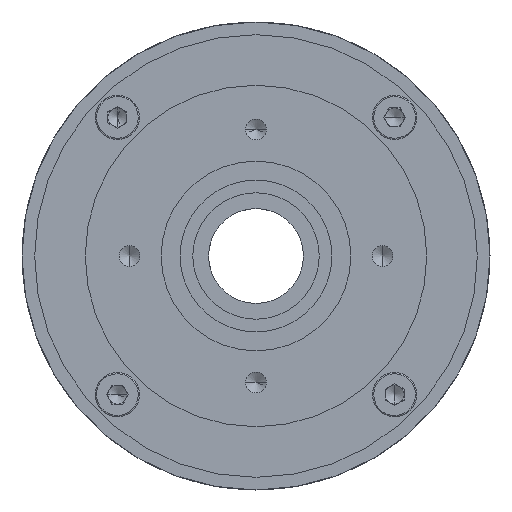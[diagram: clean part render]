
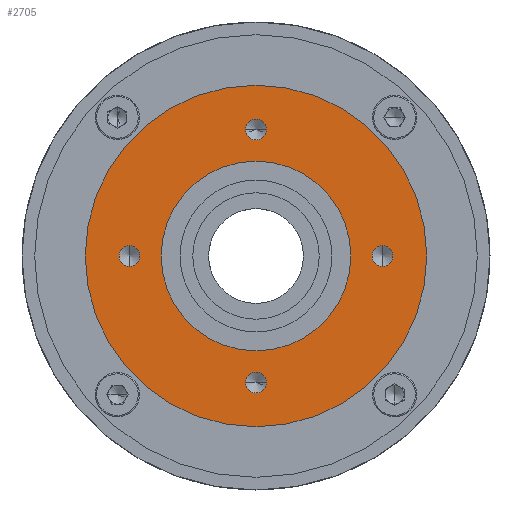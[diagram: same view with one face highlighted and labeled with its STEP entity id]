
A CAD part, left-side view. The second image highlights one B-rep face of the part: STEP entity #2705.
In plain terms, the highlighted planar face has unit normal (-1, 0, 0).
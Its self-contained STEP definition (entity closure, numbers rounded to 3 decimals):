
#160 = VERTEX_POINT ( 'NONE', #30003 ) ;
#371 = ORIENTED_EDGE ( 'NONE', *, *, #6577, .T. ) ;
#602 = AXIS2_PLACEMENT_3D ( 'NONE', #6543, #20966, #6427 ) ;
#694 = CARTESIAN_POINT ( 'NONE',  ( 2., 0., 0. ) ) ;
#868 = CIRCLE ( 'NONE', #18626, 1.65 ) ;
#870 = DIRECTION ( 'NONE',  ( -1., 0., 0. ) ) ;
#1487 = CIRCLE ( 'NONE', #15223, 1.65 ) ;
#1609 = CIRCLE ( 'NONE', #17439, 1.65 ) ;
#1887 = CIRCLE ( 'NONE', #17759, 1.65 ) ;
#1986 = CARTESIAN_POINT ( 'NONE',  ( 2., 0., -18.35 ) ) ;
#2315 = AXIS2_PLACEMENT_3D ( 'NONE', #12545, #8071, #17520 ) ;
#2382 = AXIS2_PLACEMENT_3D ( 'NONE', #9445, #7017, #21225 ) ;
#2393 = CIRCLE ( 'NONE', #2382, 15. ) ;
#2705 = ADVANCED_FACE ( 'NONE', ( #11114, #4659, #13771, #22118, #6540, #4259 ), #15303, .T. ) ;
#3181 = CARTESIAN_POINT ( 'NONE',  ( 2., 0., 0. ) ) ;
#3222 = DIRECTION ( 'NONE',  ( 0., 0., 1. ) ) ;
#4259 = FACE_BOUND ( 'NONE', #16957, .T. ) ;
#4659 = FACE_OUTER_BOUND ( 'NONE', #19294, .T. ) ;
#5569 = DIRECTION ( 'NONE',  ( -1., 0., 0. ) ) ;
#5762 = CARTESIAN_POINT ( 'NONE',  ( 2., 0., 27. ) ) ;
#5797 = DIRECTION ( 'NONE',  ( 1., 0., 0. ) ) ;
#6210 = VERTEX_POINT ( 'NONE', #27130 ) ;
#6319 = EDGE_LOOP ( 'NONE', ( #371, #10552 ) ) ;
#6427 = DIRECTION ( 'NONE',  ( 0., 0., 1. ) ) ;
#6540 = FACE_BOUND ( 'NONE', #6319, .T. ) ;
#6543 = CARTESIAN_POINT ( 'NONE',  ( 2., 0., 20. ) ) ;
#6577 = EDGE_CURVE ( 'NONE', #25506, #14195, #13672, .T. ) ;
#7017 = DIRECTION ( 'NONE',  ( -1., 0., 0. ) ) ;
#7979 = CARTESIAN_POINT ( 'NONE',  ( 2., 0., -20. ) ) ;
#8071 = DIRECTION ( 'NONE',  ( 1., 0., 0. ) ) ;
#8177 = DIRECTION ( 'NONE',  ( 0., 0., 1. ) ) ;
#8238 = DIRECTION ( 'NONE',  ( 1., 0., 0. ) ) ;
#8771 = DIRECTION ( 'NONE',  ( -1., 0., 0. ) ) ;
#9131 = CARTESIAN_POINT ( 'NONE',  ( 2., -20., 0. ) ) ;
#9309 = EDGE_CURVE ( 'NONE', #23869, #18228, #2393, .T. ) ;
#9445 = CARTESIAN_POINT ( 'NONE',  ( 2., 0., 0. ) ) ;
#9837 = EDGE_CURVE ( 'NONE', #28515, #31068, #13417, .T. ) ;
#10188 = CARTESIAN_POINT ( 'NONE',  ( 2., 0., 15. ) ) ;
#10366 = EDGE_CURVE ( 'NONE', #14195, #25506, #1609, .T. ) ;
#10535 = DIRECTION ( 'NONE',  ( 1., 0., 0. ) ) ;
#10552 = ORIENTED_EDGE ( 'NONE', *, *, #10366, .T. ) ;
#10601 = DIRECTION ( 'NONE',  ( 0., 0., 1. ) ) ;
#10725 = DIRECTION ( 'NONE',  ( 1., 0., 0. ) ) ;
#11114 = FACE_BOUND ( 'NONE', #15269, .T. ) ;
#11220 = DIRECTION ( 'NONE',  ( 0., 0., 1. ) ) ;
#11224 = ORIENTED_EDGE ( 'NONE', *, *, #20737, .T. ) ;
#11274 = AXIS2_PLACEMENT_3D ( 'NONE', #17773, #5797, #22447 ) ;
#11598 = EDGE_LOOP ( 'NONE', ( #17548, #17240 ) ) ;
#12070 = ORIENTED_EDGE ( 'NONE', *, *, #9309, .F. ) ;
#12545 = CARTESIAN_POINT ( 'NONE',  ( 2., -20., 0. ) ) ;
#12744 = CARTESIAN_POINT ( 'NONE',  ( 2., -20., 1.65 ) ) ;
#13343 = DIRECTION ( 'NONE',  ( 0., 0., 1. ) ) ;
#13349 = AXIS2_PLACEMENT_3D ( 'NONE', #3181, #870, #10601 ) ;
#13378 = DIRECTION ( 'NONE',  ( 0., 0., 1. ) ) ;
#13417 = CIRCLE ( 'NONE', #11274, 1.65 ) ;
#13672 = CIRCLE ( 'NONE', #2315, 1.65 ) ;
#13771 = FACE_BOUND ( 'NONE', #16140, .T. ) ;
#13925 = DIRECTION ( 'NONE',  ( 1., 0., 0. ) ) ;
#14195 = VERTEX_POINT ( 'NONE', #24195 ) ;
#14341 = CARTESIAN_POINT ( 'NONE',  ( 2., 20., -1.65 ) ) ;
#14572 = CIRCLE ( 'NONE', #30219, 27. ) ;
#14829 = EDGE_CURVE ( 'NONE', #31068, #28515, #1887, .T. ) ;
#15223 = AXIS2_PLACEMENT_3D ( 'NONE', #7979, #10535, #3222 ) ;
#15269 = EDGE_LOOP ( 'NONE', ( #20436, #12070 ) ) ;
#15303 = PLANE ( 'NONE',  #18936 ) ;
#15309 = CIRCLE ( 'NONE', #30032, 27. ) ;
#16140 = EDGE_LOOP ( 'NONE', ( #26476, #29555 ) ) ;
#16477 = DIRECTION ( 'NONE',  ( 0., 0., 1. ) ) ;
#16605 = ORIENTED_EDGE ( 'NONE', *, *, #27434, .T. ) ;
#16699 = VERTEX_POINT ( 'NONE', #5762 ) ;
#16945 = AXIS2_PLACEMENT_3D ( 'NONE', #17275, #8238, #13343 ) ;
#16957 = EDGE_LOOP ( 'NONE', ( #30519, #16605 ) ) ;
#17240 = ORIENTED_EDGE ( 'NONE', *, *, #27644, .T. ) ;
#17275 = CARTESIAN_POINT ( 'NONE',  ( 2., 0., -20. ) ) ;
#17421 = EDGE_CURVE ( 'NONE', #23565, #30065, #26355, .T. ) ;
#17439 = AXIS2_PLACEMENT_3D ( 'NONE', #9131, #13925, #30909 ) ;
#17520 = DIRECTION ( 'NONE',  ( 0., 0., 1. ) ) ;
#17548 = ORIENTED_EDGE ( 'NONE', *, *, #17421, .T. ) ;
#17660 = DIRECTION ( 'NONE',  ( 0., 0., 1. ) ) ;
#17759 = AXIS2_PLACEMENT_3D ( 'NONE', #25671, #10725, #13378 ) ;
#17773 = CARTESIAN_POINT ( 'NONE',  ( 2., 20., 0. ) ) ;
#18228 = VERTEX_POINT ( 'NONE', #10188 ) ;
#18626 = AXIS2_PLACEMENT_3D ( 'NONE', #26147, #31031, #16477 ) ;
#18936 = AXIS2_PLACEMENT_3D ( 'NONE', #22622, #29836, #8177 ) ;
#18957 = CIRCLE ( 'NONE', #602, 1.65 ) ;
#19294 = EDGE_LOOP ( 'NONE', ( #11224, #25850 ) ) ;
#19930 = EDGE_CURVE ( 'NONE', #18228, #23869, #27516, .T. ) ;
#20436 = ORIENTED_EDGE ( 'NONE', *, *, #19930, .F. ) ;
#20737 = EDGE_CURVE ( 'NONE', #16699, #6210, #14572, .T. ) ;
#20783 = VERTEX_POINT ( 'NONE', #20860 ) ;
#20860 = CARTESIAN_POINT ( 'NONE',  ( 2., 0., 18.35 ) ) ;
#20966 = DIRECTION ( 'NONE',  ( 1., 0., 0. ) ) ;
#21225 = DIRECTION ( 'NONE',  ( 0., 0., 1. ) ) ;
#22118 = FACE_BOUND ( 'NONE', #11598, .T. ) ;
#22447 = DIRECTION ( 'NONE',  ( 0., 0., 1. ) ) ;
#22552 = EDGE_CURVE ( 'NONE', #6210, #16699, #15309, .T. ) ;
#22622 = CARTESIAN_POINT ( 'NONE',  ( 2., 0., 0. ) ) ;
#22774 = CARTESIAN_POINT ( 'NONE',  ( 2., 0., -15. ) ) ;
#23009 = CARTESIAN_POINT ( 'NONE',  ( 2., 20., 1.65 ) ) ;
#23327 = CARTESIAN_POINT ( 'NONE',  ( 2., 0., 0. ) ) ;
#23565 = VERTEX_POINT ( 'NONE', #1986 ) ;
#23869 = VERTEX_POINT ( 'NONE', #22774 ) ;
#24195 = CARTESIAN_POINT ( 'NONE',  ( 2., -20., -1.65 ) ) ;
#24408 = EDGE_CURVE ( 'NONE', #160, #20783, #868, .T. ) ;
#25506 = VERTEX_POINT ( 'NONE', #12744 ) ;
#25671 = CARTESIAN_POINT ( 'NONE',  ( 2., 20., 0. ) ) ;
#25850 = ORIENTED_EDGE ( 'NONE', *, *, #22552, .T. ) ;
#26147 = CARTESIAN_POINT ( 'NONE',  ( 2., 0., 20. ) ) ;
#26355 = CIRCLE ( 'NONE', #16945, 1.65 ) ;
#26476 = ORIENTED_EDGE ( 'NONE', *, *, #9837, .T. ) ;
#27130 = CARTESIAN_POINT ( 'NONE',  ( 2., 0., -27. ) ) ;
#27434 = EDGE_CURVE ( 'NONE', #20783, #160, #18957, .T. ) ;
#27516 = CIRCLE ( 'NONE', #13349, 15. ) ;
#27644 = EDGE_CURVE ( 'NONE', #30065, #23565, #1487, .T. ) ;
#28515 = VERTEX_POINT ( 'NONE', #23009 ) ;
#29555 = ORIENTED_EDGE ( 'NONE', *, *, #14829, .T. ) ;
#29836 = DIRECTION ( 'NONE',  ( -1., 0., 0. ) ) ;
#30003 = CARTESIAN_POINT ( 'NONE',  ( 2., 0., 21.65 ) ) ;
#30032 = AXIS2_PLACEMENT_3D ( 'NONE', #694, #5569, #17660 ) ;
#30065 = VERTEX_POINT ( 'NONE', #31075 ) ;
#30219 = AXIS2_PLACEMENT_3D ( 'NONE', #23327, #8771, #11220 ) ;
#30519 = ORIENTED_EDGE ( 'NONE', *, *, #24408, .T. ) ;
#30909 = DIRECTION ( 'NONE',  ( 0., 0., 1. ) ) ;
#31031 = DIRECTION ( 'NONE',  ( 1., 0., 0. ) ) ;
#31068 = VERTEX_POINT ( 'NONE', #14341 ) ;
#31075 = CARTESIAN_POINT ( 'NONE',  ( 2., 0., -21.65 ) ) ;
